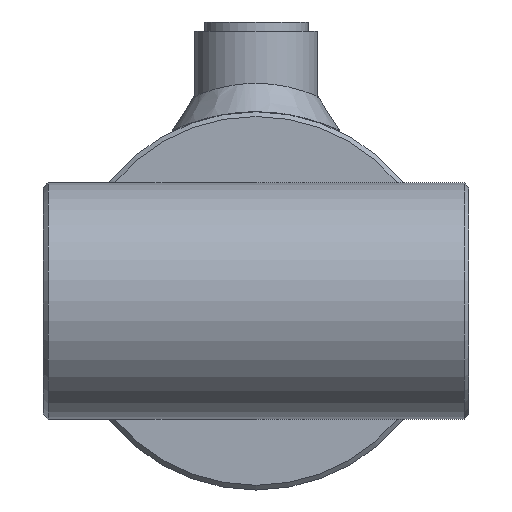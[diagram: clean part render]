
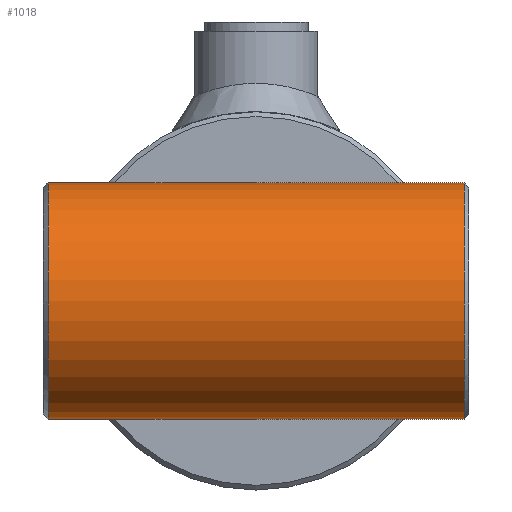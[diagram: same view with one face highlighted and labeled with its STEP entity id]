
A CAD part, left-side view. The second image highlights one B-rep face of the part: STEP entity #1018.
In plain terms, the highlighted cylindrical face has radius 25 mm (diameter 50 mm), a full revolution.
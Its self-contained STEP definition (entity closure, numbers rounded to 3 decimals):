
#1018 = ADVANCED_FACE( '', ( #1878, #1879 ), #1880, .T. );
#1878 = FACE_OUTER_BOUND( '', #6720, .T. );
#1879 = FACE_OUTER_BOUND( '', #6721, .T. );
#1880 = CYLINDRICAL_SURFACE( '', #6722, 25. );
#6720 = EDGE_LOOP( '', ( #9317 ) );
#6721 = EDGE_LOOP( '', ( #9318 ) );
#6722 = AXIS2_PLACEMENT_3D( '', #9319, #9320, #9321 );
#9317 = ORIENTED_EDGE( '', *, *, #10098, .T. );
#9318 = ORIENTED_EDGE( '', *, *, #10140, .T. );
#9319 = CARTESIAN_POINT( '', ( 0., -45., 0. ) );
#9320 = DIRECTION( '', ( 0., -1., 0. ) );
#9321 = DIRECTION( '', ( 0., 0., 1. ) );
#10098 = EDGE_CURVE( '', #10905, #10905, #10906, .F. );
#10140 = EDGE_CURVE( '', #10969, #10969, #10970, .T. );
#10905 = VERTEX_POINT( '', #12647 );
#10906 = CIRCLE( '', #12648, 25. );
#10969 = VERTEX_POINT( '', #12914 );
#10970 = CIRCLE( '', #12915, 25. );
#12647 = CARTESIAN_POINT( '', ( 0., 44., 25. ) );
#12648 = AXIS2_PLACEMENT_3D( '', #14172, #14173, #14174 );
#12914 = CARTESIAN_POINT( '', ( 0., -44., 25. ) );
#12915 = AXIS2_PLACEMENT_3D( '', #14232, #14233, #14234 );
#14172 = CARTESIAN_POINT( '', ( 0., 44., 0. ) );
#14173 = DIRECTION( '', ( 0., 1., 0. ) );
#14174 = DIRECTION( '', ( 0., 0., 1. ) );
#14232 = CARTESIAN_POINT( '', ( 0., -44., 0. ) );
#14233 = DIRECTION( '', ( 0., 1., 0. ) );
#14234 = DIRECTION( '', ( 0., 0., 1. ) );
